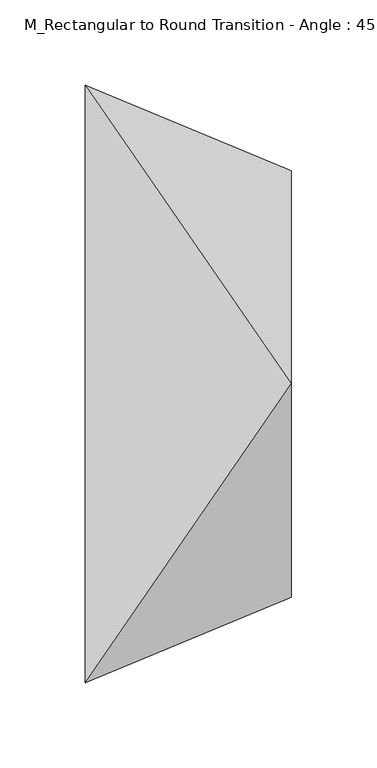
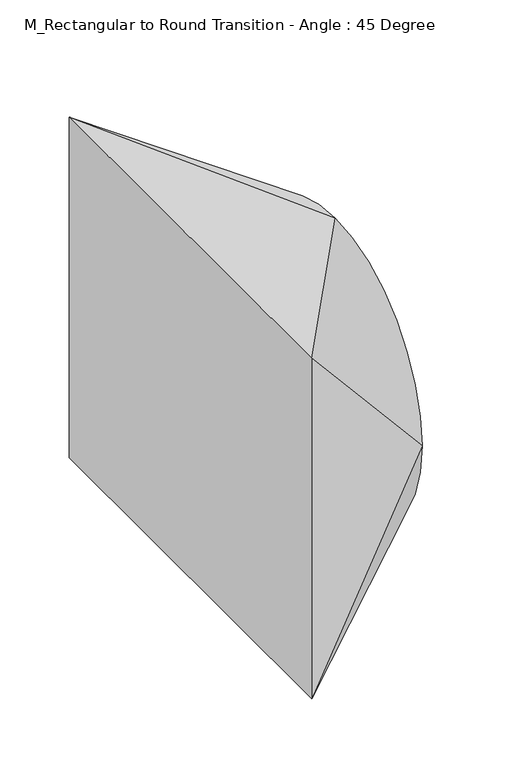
"""IFC4 building model written with IfcOpenShell, lengths in millimetres: duct fitting geometry, M_Rectangular to Round Transition - Angle : 45 Degree."""

from ifc_helpers import new_model, si_unit, frame, origin, place, context, project, spatial, circle_curve, source, transform, mapped, element, save
from ifc_brep_helpers import plane_surface, spline_surface, advanced_brep


def m_rectangular_to_round_transition_angle_45_degree_cff8e1e1(model_context):
    return source(origin(), model_context, "Body", "AdvancedBrep", [
        advanced_brep(
        [(0.0, -175.0, -150.0), (0.0, -175.0, 150.0), (0.0, 175.0, 150.0), (0.0, 175.0, -150.0), (120.7106781, -125.0, 0.05), (120.7106781, 0.0, -124.95), (120.7106781, 125.0, 0.05), (120.7106781, 0.0, 125.05)],
        [
            (0, 1),
            (1, 2),
            (2, 3),
            (3, 0),
            (4, 5, circle_curve(frame((120.7106781, 0.0, 0.05), z_axis=(1.0, 0.0, 0.0), x_axis=(0.0, -1.0, 0.0)), 125.0)),
            (5, 6, circle_curve(frame((120.7106781, 0.0, 0.05), z_axis=(1.0, 0.0, 0.0), x_axis=(0.0, -1.0, 0.0)), 125.0)),
            (6, 7, circle_curve(frame((120.7106781, 0.0, 0.05), z_axis=(1.0, 0.0, 0.0), x_axis=(0.0, -1.0, 0.0)), 125.0)),
            (7, 4, circle_curve(frame((120.7106781, 0.0, 0.05), z_axis=(1.0, 0.0, 0.0), x_axis=(0.0, -1.0, 0.0)), 125.0)),
            (0, 4),
            (4, 1),
            (7, 1),
            (7, 2),
            (6, 2),
            (6, 3),
            (5, 3),
            (5, 0),
        ],
        [
            plane_surface(frame((0.0, 0.0, 0.0), z_axis=(-1.0, 0.0, 0.0), x_axis=(0.0, 1.0, 0.0))),
            plane_surface(frame((120.7106781, 0.0, 0.05), z_axis=(1.0, 0.0, 0.0), x_axis=(0.0, 1.0, 0.0))),
            plane_surface(frame((120.7106781, -125.0, 0.05), z_axis=(0.3826834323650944, -0.9238795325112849, 0.0), x_axis=(0.0, 0.0, 1.0))),
            spline_surface(2, 1, [[(120.7106781, -125.0, 0.05), (0.0, -175.0, 150.0)], [(120.7106781, -125.0, 125.05), (0.0, -175.0, 150.0)], [(120.7106781, 0.0, 125.05), (0.0, -175.0, 150.0)]], [3, 3], [2, 2], [0.0, 1.0], [0.0, 1.0], weights=[[1.0, 1.0], [0.7071067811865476, 0.7071067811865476], [1.0, 1.0]]),
            plane_surface(frame((120.7106781, 0.0, 125.05), z_axis=(0.2024140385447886, 0.0, 0.9793000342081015), x_axis=(0.0, 1.0, 0.0))),
            spline_surface(2, 1, [[(120.7106781, 0.0, 125.05), (0.0, 175.0, 150.0)], [(120.7106781, 125.0, 125.05), (0.0, 175.0, 150.0)], [(120.7106781, 125.0, 0.05), (0.0, 175.0, 150.0)]], [3, 3], [2, 2], [0.0, 1.0], [0.0, 1.0], weights=[[1.0, 1.0], [0.7071067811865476, 0.7071067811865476], [1.0, 1.0]]),
            plane_surface(frame((120.7106781, 125.0, 0.05), z_axis=(0.38268343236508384, 0.9238795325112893, 0.0), x_axis=(0.0, 0.0, -1.0))),
            spline_surface(2, 1, [[(120.7106781, 125.0, 0.05), (0.0, 175.0, -150.0)], [(120.7106781, 125.0, -124.95), (0.0, 175.0, -150.0)], [(120.7106781, 0.0, -124.95), (0.0, 175.0, -150.0)]], [3, 3], [2, 2], [0.0, 1.0], [0.0, 1.0], weights=[[1.0, 1.0], [0.7071067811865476, 0.7071067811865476], [1.0, 1.0]]),
            plane_surface(frame((120.7106781, 0.0, -124.95), z_axis=(0.20319188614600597, 0.0, -0.979138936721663), x_axis=(0.0, -1.0, 0.0))),
            spline_surface(2, 1, [[(120.7106781, 0.0, -124.95), (0.0, -175.0, -150.0)], [(120.7106781, -125.0, -124.95), (0.0, -175.0, -150.0)], [(120.7106781, -125.0, 0.05), (0.0, -175.0, -150.0)]], [3, 3], [2, 2], [0.0, 1.0], [0.0, 1.0], weights=[[1.0, 1.0], [0.7071067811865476, 0.7071067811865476], [1.0, 1.0]]),
        ],
        [
            (0, [[1, 2, 3, 4]]),
            (1, [[5, 6, 7, 8]]),
            (2, [[-1, 9, 10]]),
            (3, [[-8, 11, -10]]),
            (4, [[-2, -11, 12]]),
            (5, [[-7, 13, -12]]),
            (6, [[-3, -13, 14]]),
            (7, [[-6, 15, -14]]),
            (8, [[-4, -15, 16]]),
            (9, [[-5, -9, -16]]),
        ],
    ),
        advanced_brep(
        [(0.0, -175.0, -150.0), (0.0, -175.0, 150.0), (0.0, 175.0, 150.0), (0.0, 175.0, -150.0), (120.7106781, -125.0, 0.05), (120.7106781, 0.0, -124.95), (120.7106781, 125.0, 0.05), (120.7106781, 0.0, 125.05)],
        [
            (0, 1),
            (1, 2),
            (2, 3),
            (3, 0),
            (4, 5, circle_curve(frame((120.7106781, 0.0, 0.05), z_axis=(1.0, 0.0, 0.0), x_axis=(0.0, -1.0, 0.0)), 125.0)),
            (5, 6, circle_curve(frame((120.7106781, 0.0, 0.05), z_axis=(1.0, 0.0, 0.0), x_axis=(0.0, -1.0, 0.0)), 125.0)),
            (6, 7, circle_curve(frame((120.7106781, 0.0, 0.05), z_axis=(1.0, 0.0, 0.0), x_axis=(0.0, -1.0, 0.0)), 125.0)),
            (7, 4, circle_curve(frame((120.7106781, 0.0, 0.05), z_axis=(1.0, 0.0, 0.0), x_axis=(0.0, -1.0, 0.0)), 125.0)),
            (0, 4),
            (4, 1),
            (7, 1),
            (7, 2),
            (6, 2),
            (6, 3),
            (5, 3),
            (5, 0),
        ],
        [
            plane_surface(frame((0.0, 0.0, 0.0), z_axis=(-1.0, 0.0, 0.0), x_axis=(0.0, 1.0, 0.0))),
            plane_surface(frame((120.7106781, 0.0, 0.05), z_axis=(1.0, 0.0, 0.0), x_axis=(0.0, 1.0, 0.0))),
            plane_surface(frame((120.7106781, -125.0, 0.05), z_axis=(0.3826834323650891, -0.9238795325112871, 0.0), x_axis=(0.0, 0.0, 1.0))),
            spline_surface(2, 1, [[(120.7106781, -125.0, 0.05), (0.0, -175.0, 150.0)], [(120.7106781, -125.0, 125.05), (0.0, -175.0, 150.0)], [(120.7106781, 0.0, 125.05), (0.0, -175.0, 150.0)]], [3, 3], [2, 2], [0.0, 1.0], [0.0, 1.0], weights=[[1.0, 1.0], [0.7071067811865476, 0.7071067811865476], [1.0, 1.0]]),
            plane_surface(frame((120.7106781, 0.0, 125.05), z_axis=(0.2024140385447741, 0.0, 0.9793000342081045), x_axis=(0.0, 1.0, 0.0))),
            spline_surface(2, 1, [[(120.7106781, 0.0, 125.05), (0.0, 175.0, 150.0)], [(120.7106781, 125.0, 125.05), (0.0, 175.0, 150.0)], [(120.7106781, 125.0, 0.05), (0.0, 175.0, 150.0)]], [3, 3], [2, 2], [0.0, 1.0], [0.0, 1.0], weights=[[1.0, 1.0], [0.7071067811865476, 0.7071067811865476], [1.0, 1.0]]),
            plane_surface(frame((120.7106781, 125.0, 0.05), z_axis=(0.3826834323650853, 0.9238795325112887, 0.0), x_axis=(0.0, 0.0, -1.0))),
            spline_surface(2, 1, [[(120.7106781, 125.0, 0.05), (0.0, 175.0, -150.0)], [(120.7106781, 125.0, -124.95), (0.0, 175.0, -150.0)], [(120.7106781, 0.0, -124.95), (0.0, 175.0, -150.0)]], [3, 3], [2, 2], [0.0, 1.0], [0.0, 1.0], weights=[[1.0, 1.0], [0.7071067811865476, 0.7071067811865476], [1.0, 1.0]]),
            plane_surface(frame((120.7106781, 0.0, -124.95), z_axis=(0.2031918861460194, 0.0, -0.9791389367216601), x_axis=(0.0, -1.0, 0.0))),
            spline_surface(2, 1, [[(120.7106781, 0.0, -124.95), (0.0, -175.0, -150.0)], [(120.7106781, -125.0, -124.95), (0.0, -175.0, -150.0)], [(120.7106781, -125.0, 0.05), (0.0, -175.0, -150.0)]], [3, 3], [2, 2], [0.0, 1.0], [0.0, 1.0], weights=[[1.0, 1.0], [0.7071067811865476, 0.7071067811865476], [1.0, 1.0]]),
        ],
        [
            (0, [[1, 2, 3, 4]]),
            (1, [[5, 6, 7, 8]]),
            (2, [[-1, 9, 10]]),
            (3, [[-8, 11, -10]]),
            (4, [[-2, -11, 12]]),
            (5, [[-7, 13, -12]]),
            (6, [[-3, -13, 14]]),
            (7, [[-6, 15, -14]]),
            (8, [[-4, -15, 16]]),
            (9, [[-5, -9, -16]]),
        ],
    ),
        advanced_brep(
        [(120.7106781, 0.0, 125.05), (120.7106781, -125.0, 0.05), (120.7106781, 0.0, -124.95), (120.7106781, 125.0, 0.05), (0.0, -175.0, 150.0), (0.0, 175.0, 150.0), (0.0, 175.0, -150.0), (0.0, -175.0, -150.0)],
        [
            (0, 1, circle_curve(frame((120.7106781, 0.0, 0.05), z_axis=(1.0, 0.0, 0.0), x_axis=(0.0, 1.0, 0.0)), 125.0)),
            (1, 2, circle_curve(frame((120.7106781, 0.0, 0.05), z_axis=(1.0, 0.0, 0.0), x_axis=(0.0, 1.0, 0.0)), 125.0)),
            (2, 3, circle_curve(frame((120.7106781, 0.0, 0.05), z_axis=(1.0, 0.0, 0.0), x_axis=(0.0, 1.0, 0.0)), 125.0)),
            (3, 0, circle_curve(frame((120.7106781, 0.0, 0.05), z_axis=(1.0, 0.0, 0.0), x_axis=(0.0, 1.0, 0.0)), 125.0)),
            (4, 5),
            (5, 6),
            (6, 7),
            (7, 4),
            (0, 4),
            (4, 1),
            (7, 1),
            (7, 2),
            (6, 2),
            (6, 3),
            (5, 3),
            (5, 0),
        ],
        [
            plane_surface(frame((120.7106781, 0.0, 0.05), z_axis=(1.0, 0.0, 0.0), x_axis=(0.0, 0.0, -1.0))),
            plane_surface(frame((0.0, 0.0, 0.0), z_axis=(-1.0, 0.0, 0.0), x_axis=(0.0, 0.0, -1.0))),
            spline_surface(2, 1, [[(0.0, -175.0, 150.0), (120.7106781, 0.0, 125.05)], [(0.0, -175.0, 150.0), (120.7106781, -125.0, 125.05)], [(0.0, -175.0, 150.0), (120.7106781, -125.0, 0.05)]], [3, 3], [2, 2], [0.0, 1.0], [0.0, 1.0], weights=[[1.0, 1.0], [0.7071067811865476, 0.7071067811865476], [1.0, 1.0]]),
            plane_surface(frame((0.0, -175.0, 0.0), z_axis=(0.3826834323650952, -0.9238795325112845, 0.0), x_axis=(0.0, 0.0, -1.0))),
            spline_surface(2, 1, [[(0.0, -175.0, -150.0), (120.7106781, -125.0, 0.05)], [(0.0, -175.0, -150.0), (120.7106781, -125.0, -124.95)], [(0.0, -175.0, -150.0), (120.7106781, 0.0, -124.95)]], [3, 3], [2, 2], [0.0, 1.0], [0.0, 1.0], weights=[[1.0, 1.0], [0.7071067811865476, 0.7071067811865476], [1.0, 1.0]]),
            plane_surface(frame((0.0, 0.0, -150.0), z_axis=(0.2031918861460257, 0.0, -0.9791389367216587), x_axis=(0.0, 1.0, 0.0))),
            spline_surface(2, 1, [[(0.0, 175.0, -150.0), (120.7106781, 0.0, -124.95)], [(0.0, 175.0, -150.0), (120.7106781, 125.0, -124.95)], [(0.0, 175.0, -150.0), (120.7106781, 125.0, 0.05)]], [3, 3], [2, 2], [0.0, 1.0], [0.0, 1.0], weights=[[1.0, 1.0], [0.7071067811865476, 0.7071067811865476], [1.0, 1.0]]),
            plane_surface(frame((0.0, 175.0, 0.0), z_axis=(0.3826834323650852, 0.9238795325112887, 0.0), x_axis=(0.0, 0.0, 1.0))),
            spline_surface(2, 1, [[(0.0, 175.0, 150.0), (120.7106781, 125.0, 0.05)], [(0.0, 175.0, 150.0), (120.7106781, 125.0, 125.05)], [(0.0, 175.0, 150.0), (120.7106781, 0.0, 125.05)]], [3, 3], [2, 2], [0.0, 1.0], [0.0, 1.0], weights=[[1.0, 1.0], [0.7071067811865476, 0.7071067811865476], [1.0, 1.0]]),
            plane_surface(frame((0.0, 0.0, 150.0), z_axis=(0.20241403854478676, 0.0, 0.979300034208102), x_axis=(0.0, -1.0, 0.0))),
        ],
        [
            (0, [[1, 2, 3, 4]]),
            (1, [[5, 6, 7, 8]]),
            (2, [[-1, 9, 10]]),
            (3, [[-8, 11, -10]]),
            (4, [[-2, -11, 12]]),
            (5, [[-7, 13, -12]]),
            (6, [[-3, -13, 14]]),
            (7, [[-6, 15, -14]]),
            (8, [[-4, -15, 16]]),
            (9, [[-5, -9, -16]]),
        ],
    ),
    ])


if __name__ == "__main__":
    model = new_model("IFC4")
    model_context = context("Model", 3, world=origin())
    ifc_project = project(units=[si_unit("LENGTHUNIT", "METRE", prefix="MILLI")], contexts=[model_context])
    site = spatial("IfcSite", under=ifc_project)
    building = spatial("IfcBuilding", under=site)
    placement = place(None, origin())
    m_rectangular_to_round_transition_angle_45_degree_shape = m_rectangular_to_round_transition_angle_45_degree_cff8e1e1(model_context)
    element("IfcDuctFitting", 1, ObjectType="M_Rectangular to Round Transition - Angle : 45 Degree", at=placement, inside=building, context=model_context, shape_type="MappedRepresentation", body=[
        mapped(m_rectangular_to_round_transition_angle_45_degree_shape, transform((0.0, 0.0, 0.0), x_axis=(1.0, 0.0, 0.0), y_axis=(0.0, 1.0, 0.0), z_axis=(0.0, 0.0, 1.0))),
    ])
    save(model, "model.ifc")
